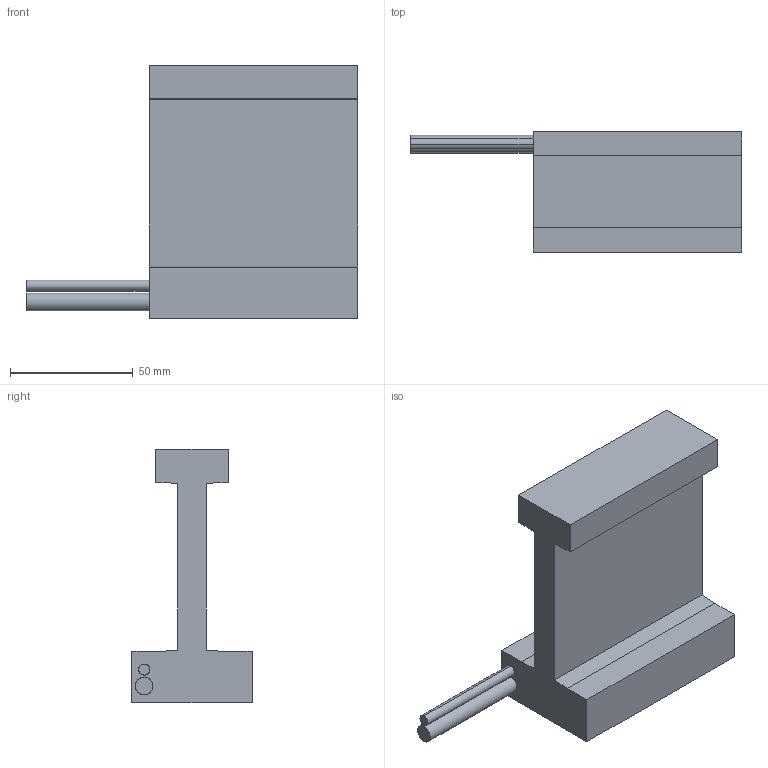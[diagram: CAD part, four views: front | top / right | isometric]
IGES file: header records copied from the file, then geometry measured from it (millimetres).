
Start section: SolidWorks IGES file using analytic representation for surfaces
Global section: file name: C:\Users\admin\Desktop\LM无铁芯U型电机 - 副本\FU700模型图\FU700-85.IGS; native system: SolidWorks 2016; preprocessor: SolidWorks 2016; author: admin; date: 201103.134528; units: millimetre
Bounding box: 135 x 49 x 103.5 mm (x, y, z)
Surface area: 35769.5 mm2 (no closed solid volume)
Topology: 0 solids, 0 shells, 34 faces, 372 edges, 366 vertices
Faces by surface type: bspline 18, revolution 16
